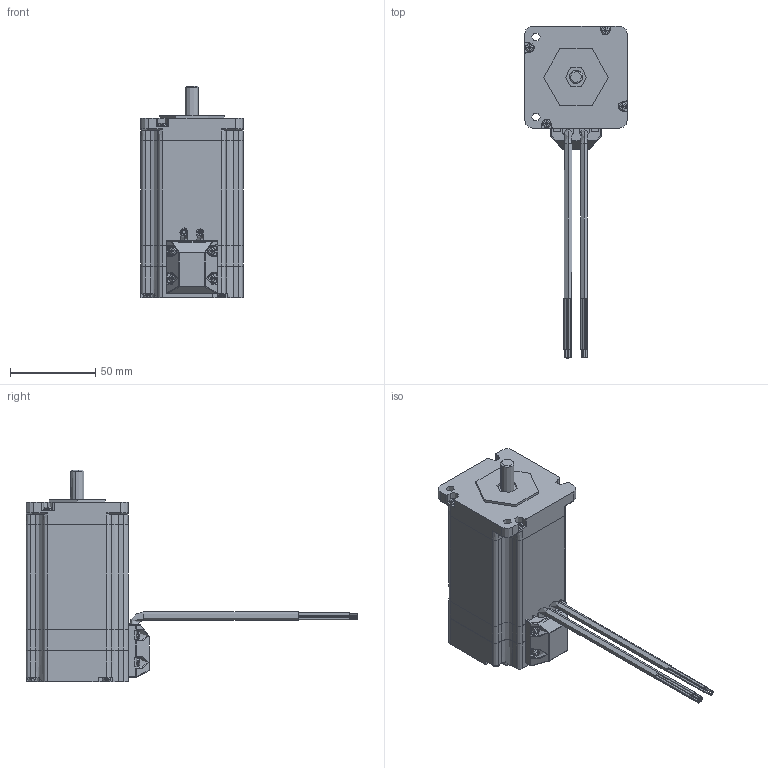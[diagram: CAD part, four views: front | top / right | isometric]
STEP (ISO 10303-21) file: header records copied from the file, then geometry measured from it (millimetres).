
FILE_DESCRIPTION (( 'STEP AP214' ), '1' );
FILE_NAME ('D57CME31.STEP', '2020-11-16T02:03:41', ( 'Microsoft' ), ( 'China' ), 'SwSTEP 2.0', 'SolidWorks 2011', '' );
FILE_SCHEMA (( 'AUTOMOTIVE_DESIGN' ));
Length unit declared in the file: millimetre
Products named in the file (17): 60-61.5-1.8_Default_Default; 蛌赽郪璃_Default_Default; 6000ZZ_1_Default_Default; 10-2.5_Default_Default; 蛌粣_1_Default_Default; 10-2.0_Default_Default; 60-13-10_Default_Default; 04-004-2_1_Default_Default; 04G-502_Default_Default; 16-021_1_Default_Default; 16-638-6_Default_Default; 盄_1_Default_Default; M3x77_1_Default_Default; M3x8_Default_Default; 16-631-1_1_Default_Default; M3x22_1_Default_Default; D57CME31
Assembly tree (30 placements, depth 3):
  D57CME31
    蛌赽郪璃_Default_Default
      60-13-10_Default_Default  x4
      6000ZZ_1_Default_Default  x2
      10-2.5_Default_Default
      蛌粣_1_Default_Default
      04-004-2_1_Default_Default  x2
      10-2.0_Default_Default
      04G-502_Default_Default
    盄_1_Default_Default
    M3x22_1_Default_Default  x4
    M3x8_Default_Default  x4
    16-021_1_Default_Default
    M3x77_1_Default_Default  x4
    16-638-6_Default_Default
    60-61.5-1.8_Default_Default
    16-631-1_1_Default_Default
Bounding box: 60 x 195 x 124.3 mm (x, y, z)
Topology: 20 solids, 97 shells, 4107 faces, 11690 edges, 7558 vertices
Faces by surface type: cylinder 2060, plane 1555, bspline 255, cone 237
Full cylindrical faces by diameter (mm): 2.6 x4
Entity records: 127775 total; most frequent: CARTESIAN_POINT 56245, ORIENTED_EDGE 10894, DIRECTION 9917, EDGE_CURVE 5503, VERTEX_POINT 3562, AXIS2_PLACEMENT_3D 3468, LINE 2981, VECTOR 2981
